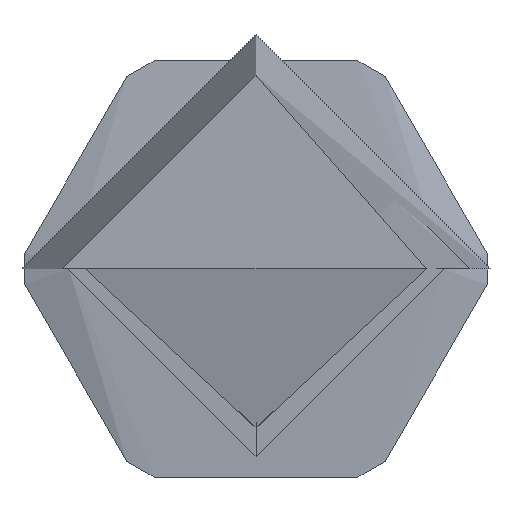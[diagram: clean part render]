
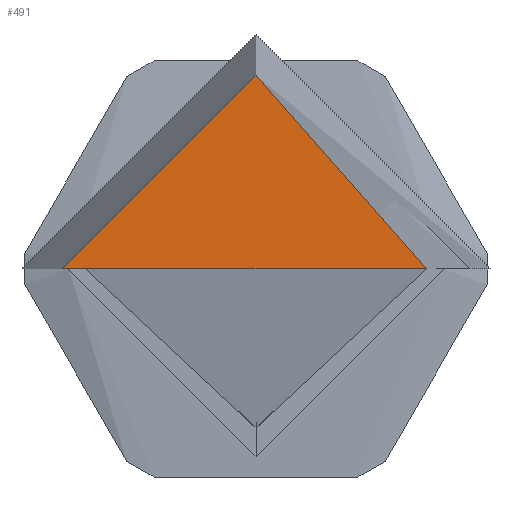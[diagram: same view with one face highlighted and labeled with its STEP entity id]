
A CAD part, left-side view. The second image highlights one B-rep face of the part: STEP entity #491.
In plain terms, the highlighted free-form (B-spline) face has degree [1, 1] with [2, 2] control points.
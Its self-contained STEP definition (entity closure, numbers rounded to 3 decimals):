
#491 = ADVANCED_FACE('',(#492,#514),#536,.T.);
#492 = FACE_BOUND('',#493,.T.);
#493 = EDGE_LOOP('',(#494,#504));
#494 = ORIENTED_EDGE('',*,*,#495,.F.);
#495 = EDGE_CURVE('',#496,#498,#500,.T.);
#496 = VERTEX_POINT('',#497);
#497 = CARTESIAN_POINT('',(0.,10.25,0.));
#498 = VERTEX_POINT('',#499);
#499 = CARTESIAN_POINT('',(0.,0.,10.25));
#500 = ( BOUNDED_CURVE() B_SPLINE_CURVE(2,(#501,#502,#503),
.UNSPECIFIED.,.F.,.F.) B_SPLINE_CURVE_WITH_KNOTS((3,3),(0.,
1.571),.PIECEWISE_BEZIER_KNOTS.) CURVE() 
GEOMETRIC_REPRESENTATION_ITEM() RATIONAL_B_SPLINE_CURVE((1.,
0.707,1.)) REPRESENTATION_ITEM('') );
#501 = CARTESIAN_POINT('',(0.,10.25,0.));
#502 = CARTESIAN_POINT('',(0.,10.25,10.25));
#503 = CARTESIAN_POINT('',(0.,0.,10.25));
#504 = ORIENTED_EDGE('',*,*,#505,.F.);
#505 = EDGE_CURVE('',#498,#496,#506,.T.);
#506 = ( BOUNDED_CURVE() B_SPLINE_CURVE(2,(#507,#508,#509,#510,#511,#512
,#513),.UNSPECIFIED.,.F.,.F.) B_SPLINE_CURVE_WITH_KNOTS((3,2,2,3),(
    1.571,3.142,4.712,6.283),
.UNSPECIFIED.) CURVE() GEOMETRIC_REPRESENTATION_ITEM() 
RATIONAL_B_SPLINE_CURVE((1.,0.707,1.,0.707,1.,
0.707,1.)) REPRESENTATION_ITEM('') );
#507 = CARTESIAN_POINT('',(0.,0.,10.25));
#508 = CARTESIAN_POINT('',(0.,-10.25,10.25));
#509 = CARTESIAN_POINT('',(0.,-10.25,0.));
#510 = CARTESIAN_POINT('',(0.,-10.25,-10.25));
#511 = CARTESIAN_POINT('',(0.,0.,-10.25));
#512 = CARTESIAN_POINT('',(0.,10.25,-10.25));
#513 = CARTESIAN_POINT('',(0.,10.25,0.));
#514 = FACE_BOUND('',#515,.T.);
#515 = EDGE_LOOP('',(#516,#528));
#516 = ORIENTED_EDGE('',*,*,#517,.T.);
#517 = EDGE_CURVE('',#518,#520,#522,.T.);
#518 = VERTEX_POINT('',#519);
#519 = CARTESIAN_POINT('',(0.,9.,0.));
#520 = VERTEX_POINT('',#521);
#521 = CARTESIAN_POINT('',(0.,-9.,0.));
#522 = ( BOUNDED_CURVE() B_SPLINE_CURVE(2,(#523,#524,#525,#526,#527),
.UNSPECIFIED.,.F.,.F.) B_SPLINE_CURVE_WITH_KNOTS((3,2,3),(0.,
1.571,3.142),.UNSPECIFIED.) CURVE() 
GEOMETRIC_REPRESENTATION_ITEM() RATIONAL_B_SPLINE_CURVE((1.,
0.707,1.,0.707,1.)) REPRESENTATION_ITEM('') );
#523 = CARTESIAN_POINT('',(0.,9.,0.));
#524 = CARTESIAN_POINT('',(0.,9.,9.));
#525 = CARTESIAN_POINT('',(0.,0.,9.));
#526 = CARTESIAN_POINT('',(0.,-9.,9.));
#527 = CARTESIAN_POINT('',(0.,-9.,0.));
#528 = ORIENTED_EDGE('',*,*,#529,.T.);
#529 = EDGE_CURVE('',#520,#518,#530,.T.);
#530 = ( BOUNDED_CURVE() B_SPLINE_CURVE(2,(#531,#532,#533,#534,#535),
.UNSPECIFIED.,.F.,.F.) B_SPLINE_CURVE_WITH_KNOTS((3,2,3),(3.142,
4.712,6.283),.PIECEWISE_BEZIER_KNOTS.) CURVE() 
GEOMETRIC_REPRESENTATION_ITEM() RATIONAL_B_SPLINE_CURVE((1.,
0.707,1.,0.707,1.)) REPRESENTATION_ITEM('') );
#531 = CARTESIAN_POINT('',(0.,-9.,0.));
#532 = CARTESIAN_POINT('',(0.,-9.,-9.));
#533 = CARTESIAN_POINT('',(0.,0.,-9.));
#534 = CARTESIAN_POINT('',(0.,9.,-9.));
#535 = CARTESIAN_POINT('',(0.,9.,0.));
#536 = B_SPLINE_SURFACE_WITH_KNOTS('',1,1,(
    (#537,#538)
    ,(#539,#540
    )),.UNSPECIFIED.,.F.,.F.,.F.,(2,2),(2,2),(-1.026,1.026),(-1.989,
    0.064),.PIECEWISE_BEZIER_KNOTS.);
#537 = CARTESIAN_POINT('',(0.,-10.26,-10.26));
#538 = CARTESIAN_POINT('',(0.,10.26,-10.26));
#539 = CARTESIAN_POINT('',(0.,-10.26,10.26));
#540 = CARTESIAN_POINT('',(0.,10.26,10.26));
